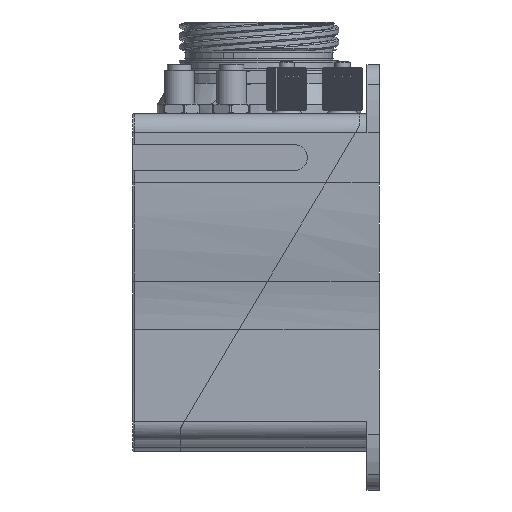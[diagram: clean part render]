
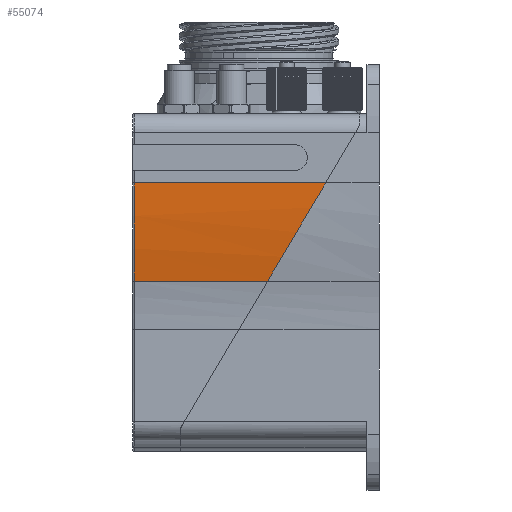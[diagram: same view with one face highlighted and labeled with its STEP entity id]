
A CAD part, left-side view. The second image highlights one B-rep face of the part: STEP entity #55074.
In plain terms, the highlighted cylindrical face has radius 90 mm (diameter 180 mm), a partial arc.
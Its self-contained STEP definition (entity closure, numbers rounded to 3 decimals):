
#1723=ELLIPSE('',#58358,104.581,90.);
#4898=FACE_OUTER_BOUND('',#7948,.T.);
#7948=EDGE_LOOP('',(#35475,#35476,#35477,#35478));
#11472=LINE('',#77560,#15390);
#11475=LINE('',#77566,#15393);
#15390=VECTOR('',#63652,10.);
#15393=VECTOR('',#63657,10.);
#19372=CIRCLE('',#58341,90.);
#21503=VERTEX_POINT('',#77522);
#21505=VERTEX_POINT('',#77528);
#21513=VERTEX_POINT('',#77559);
#21515=VERTEX_POINT('',#77565);
#27024=EDGE_CURVE('',#21505,#21503,#19372,.T.);
#27039=EDGE_CURVE('',#21503,#21513,#11472,.T.);
#27042=EDGE_CURVE('',#21505,#21515,#11475,.T.);
#27043=EDGE_CURVE('',#21513,#21515,#1723,.T.);
#35475=ORIENTED_EDGE('',*,*,#27024,.F.);
#35476=ORIENTED_EDGE('',*,*,#27042,.T.);
#35477=ORIENTED_EDGE('',*,*,#27043,.F.);
#35478=ORIENTED_EDGE('',*,*,#27039,.F.);
#50868=CYLINDRICAL_SURFACE('',#58357,90.);
#55074=ADVANCED_FACE('',(#4898),#50868,.T.);
#58341=AXIS2_PLACEMENT_3D('',#77530,#63614,#63615);
#58357=AXIS2_PLACEMENT_3D('',#77564,#63655,#63656);
#58358=AXIS2_PLACEMENT_3D('',#77567,#63658,#63659);
#63614=DIRECTION('center_axis',(0.,1.,0.));
#63615=DIRECTION('ref_axis',(-0.996,0.,-0.089));
#63652=DIRECTION('',(0.,-1.,0.));
#63655=DIRECTION('center_axis',(0.,-1.,
0.));
#63656=DIRECTION('ref_axis',(0.984,0.,0.177));
#63657=DIRECTION('',(0.,-1.,0.));
#63658=DIRECTION('center_axis',(0.,-0.861,
-0.509));
#63659=DIRECTION('ref_axis',(0.,-0.509,0.861));
#77522=CARTESIAN_POINT('',(-32.196,19.52,-2.185));
#77528=CARTESIAN_POINT('',(-30.776,19.52,-18.111));
#77530=CARTESIAN_POINT('Origin',(57.804,19.519,-2.185));
#77559=CARTESIAN_POINT('',(-32.197,-11.535,-2.185));
#77560=CARTESIAN_POINT('',(-32.196,19.77,-2.185));
#77564=CARTESIAN_POINT('Origin',(57.804,19.769,-2.185));
#77565=CARTESIAN_POINT('',(-30.776,-2.109,-18.111));
#77566=CARTESIAN_POINT('',(-30.776,19.77,-18.111));
#77567=CARTESIAN_POINT('Origin',(57.803,-11.536,-2.185));
